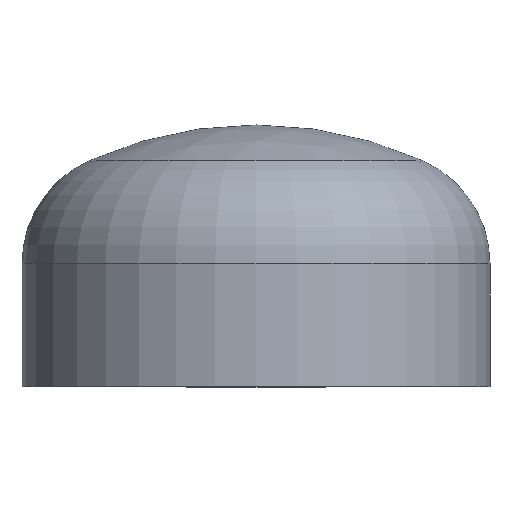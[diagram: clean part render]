
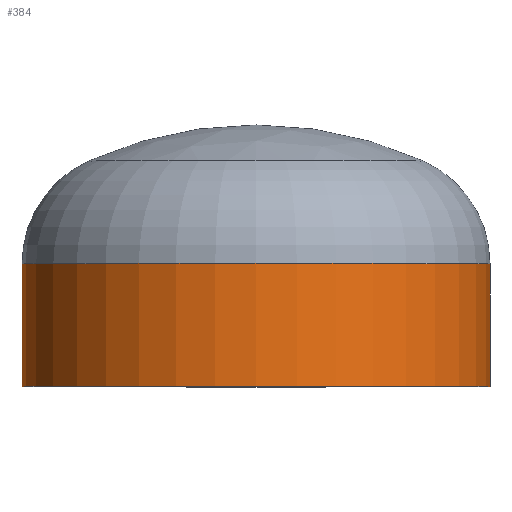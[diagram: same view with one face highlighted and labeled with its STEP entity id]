
A CAD part, top view. The second image highlights one B-rep face of the part: STEP entity #384.
In plain terms, the highlighted cylindrical face has radius 161.95 mm (diameter 323.9 mm), a partial arc.
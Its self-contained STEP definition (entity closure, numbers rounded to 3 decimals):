
#1 = EDGE_LOOP ( 'NONE', ( #302, #126, #78, #51 ) ) ;
#3 = AXIS2_PLACEMENT_3D ( 'NONE', #146, #325, #179 ) ;
#11 = AXIS2_PLACEMENT_3D ( 'NONE', #387, #254, #406 ) ;
#42 = VERTEX_POINT ( 'NONE', #287 ) ;
#51 = ORIENTED_EDGE ( 'NONE', *, *, #397, .F. ) ;
#78 = ORIENTED_EDGE ( 'NONE', *, *, #139, .F. ) ;
#86 = VERTEX_POINT ( 'NONE', #239 ) ;
#91 = VERTEX_POINT ( 'NONE', #238 ) ;
#96 = AXIS2_PLACEMENT_3D ( 'NONE', #209, #210, #307 ) ;
#126 = ORIENTED_EDGE ( 'NONE', *, *, #144, .T. ) ;
#131 = VERTEX_POINT ( 'NONE', #331 ) ;
#139 = EDGE_CURVE ( 'NONE', #131, #86, #158, .T. ) ;
#144 = EDGE_CURVE ( 'NONE', #91, #86, #277, .T. ) ;
#146 = CARTESIAN_POINT ( 'NONE',  ( 0., 0., 0. ) ) ;
#153 = VECTOR ( 'NONE', #257, 1000. ) ;
#158 = CIRCLE ( 'NONE', #96, 161.95 ) ;
#167 = FACE_OUTER_BOUND ( 'NONE', #1, .T. ) ;
#179 = DIRECTION ( 'NONE',  ( 1., 0., 0. ) ) ;
#209 = CARTESIAN_POINT ( 'NONE',  ( 0., 0., 0. ) ) ;
#210 = DIRECTION ( 'NONE',  ( 0., -1., 0. ) ) ;
#216 = VECTOR ( 'NONE', #306, 1000. ) ;
#227 = CARTESIAN_POINT ( 'NONE',  ( 161.95, 0., 0. ) ) ;
#228 = CIRCLE ( 'NONE', #11, 161.95 ) ;
#238 = CARTESIAN_POINT ( 'NONE',  ( -161.95, 85., 0. ) ) ;
#239 = CARTESIAN_POINT ( 'NONE',  ( -161.95, 0., 0. ) ) ;
#254 = DIRECTION ( 'NONE',  ( 0., -1., 0. ) ) ;
#257 = DIRECTION ( 'NONE',  ( 0., -1., 0. ) ) ;
#277 = LINE ( 'NONE', #356, #216 ) ;
#279 = CYLINDRICAL_SURFACE ( 'NONE', #3, 161.95 ) ;
#287 = CARTESIAN_POINT ( 'NONE',  ( 161.95, 85., 0. ) ) ;
#302 = ORIENTED_EDGE ( 'NONE', *, *, #392, .T. ) ;
#306 = DIRECTION ( 'NONE',  ( 0., -1., 0. ) ) ;
#307 = DIRECTION ( 'NONE',  ( 1., 0., 0. ) ) ;
#325 = DIRECTION ( 'NONE',  ( 0., -1., 0. ) ) ;
#331 = CARTESIAN_POINT ( 'NONE',  ( 161.95, 0., 0. ) ) ;
#356 = CARTESIAN_POINT ( 'NONE',  ( -161.95, 0., 0. ) ) ;
#384 = ADVANCED_FACE ( 'NONE', ( #167 ), #279, .T. ) ;
#387 = CARTESIAN_POINT ( 'NONE',  ( 0., 85., 0. ) ) ;
#392 = EDGE_CURVE ( 'NONE', #42, #91, #228, .T. ) ;
#397 = EDGE_CURVE ( 'NONE', #42, #131, #401, .T. ) ;
#401 = LINE ( 'NONE', #227, #153 ) ;
#406 = DIRECTION ( 'NONE',  ( 1., 0., 0. ) ) ;
